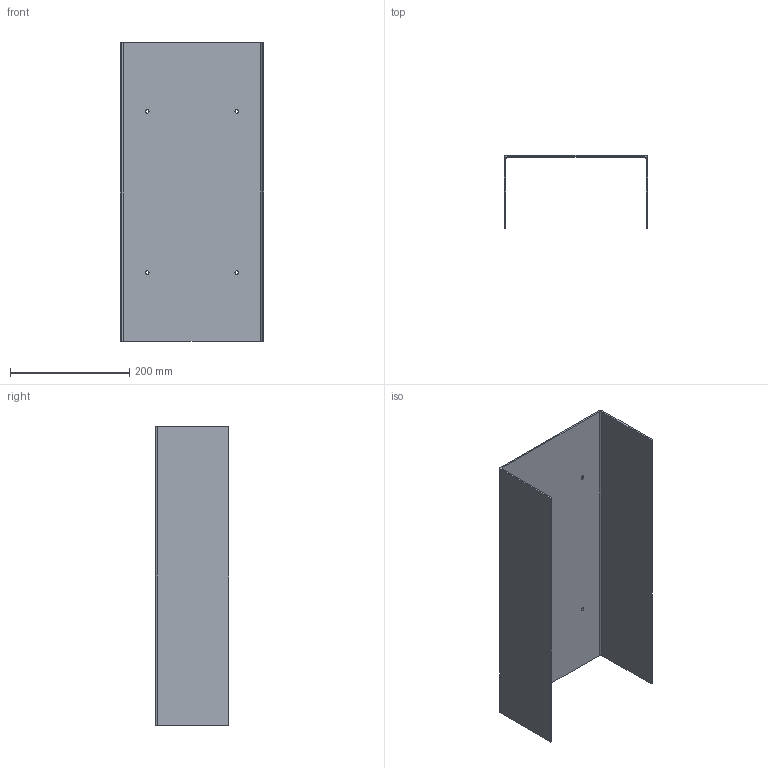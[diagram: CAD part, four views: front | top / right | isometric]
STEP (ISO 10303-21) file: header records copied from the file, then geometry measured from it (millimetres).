
FILE_DESCRIPTION (( 'STEP AP214' ), '1' );
FILE_NAME ('NF-600_kurz.STEP', '2018-12-21T13:49:05', ( '' ), ( '' ), 'SwSTEP 2.0', 'SolidWorks 2018', '' );
FILE_SCHEMA (( 'AUTOMOTIVE_DESIGN' ));
Length unit declared in the file: millimetre
Products named in the file (1): NF-600_kurz
Bounding box: 241 x 123 x 500 mm (x, y, z)
Volume: 721160.7 mm3; surface area: 484310.8 mm2
Topology: 1 solids, 1 shells, 22 faces, 60 edges, 40 vertices
Faces by surface type: cylinder 12, plane 10
Entity records: 802 total; most frequent: DIRECTION 130, CARTESIAN_POINT 123, ORIENTED_EDGE 120, EDGE_CURVE 60, AXIS2_PLACEMENT_3D 47, VERTEX_POINT 40, LINE 36, VECTOR 36
